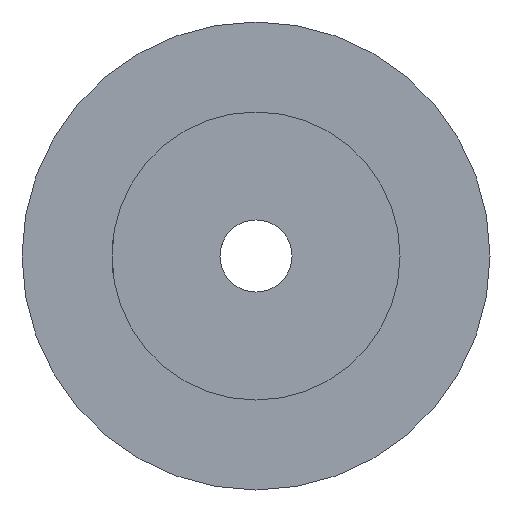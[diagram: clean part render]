
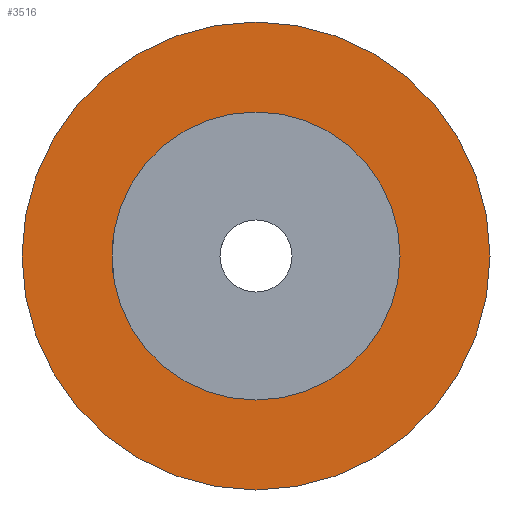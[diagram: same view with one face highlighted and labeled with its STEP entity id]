
A CAD part, left-side view. The second image highlights one B-rep face of the part: STEP entity #3516.
In plain terms, the highlighted planar face has unit normal (-1, 0, 0).
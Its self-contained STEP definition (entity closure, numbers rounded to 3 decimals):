
#2653 = CARTESIAN_POINT ( 'NONE',  ( 8., 0., 0. ) ) ;
#2654 = AXIS2_PLACEMENT_3D ( 'NONE', #2653, #2813, #2812 ) ;
#2655 = CIRCLE ( 'NONE', #2654, 32.5 ) ;
#2695 = CARTESIAN_POINT ( 'NONE',  ( 8., 0., -20. ) ) ;
#2696 = CARTESIAN_POINT ( 'NONE',  ( 8., 0., 20. ) ) ;
#2697 = DIRECTION ( 'NONE',  ( 0., 0., 1. ) ) ;
#2698 = DIRECTION ( 'NONE',  ( -1., 0., 0. ) ) ;
#2797 = DIRECTION ( 'NONE',  ( 0., 0., -1. ) ) ;
#2798 = DIRECTION ( 'NONE',  ( 1., 0., 0. ) ) ;
#2799 = CARTESIAN_POINT ( 'NONE',  ( 8., 20., 0. ) ) ;
#2800 = AXIS2_PLACEMENT_3D ( 'NONE', #2799, #2798, #2797 ) ;
#2802 = PLANE ( 'NONE',  #2800 ) ;
#2803 = FACE_OUTER_BOUND ( 'NONE', #3521, .T. ) ;
#2804 = FACE_BOUND ( 'NONE', #3519, .T. ) ;
#2812 = DIRECTION ( 'NONE',  ( 0., 0., 1. ) ) ;
#2813 = DIRECTION ( 'NONE',  ( -1., 0., 0. ) ) ;
#2814 = CARTESIAN_POINT ( 'NONE',  ( 8., 0., 0. ) ) ;
#2815 = AXIS2_PLACEMENT_3D ( 'NONE', #2814, #2698, #2697 ) ;
#2844 = CIRCLE ( 'NONE', #2815, 20. ) ;
#2908 = CARTESIAN_POINT ( 'NONE',  ( 8., 0., 0. ) ) ;
#2910 = AXIS2_PLACEMENT_3D ( 'NONE', #2908, #2944, #2943 ) ;
#2911 = CIRCLE ( 'NONE', #2910, 32.5 ) ;
#2912 = CARTESIAN_POINT ( 'NONE',  ( 8., 0., -32.5 ) ) ;
#2941 = CARTESIAN_POINT ( 'NONE',  ( 8., 0., 32.5 ) ) ;
#2943 = DIRECTION ( 'NONE',  ( 0., 0., 1. ) ) ;
#2944 = DIRECTION ( 'NONE',  ( -1., 0., 0. ) ) ;
#3007 = CIRCLE ( 'NONE', #3326, 20. ) ;
#3008 = CARTESIAN_POINT ( 'NONE',  ( 8., 0., 0. ) ) ;
#3323 = DIRECTION ( 'NONE',  ( 0., 0., 1. ) ) ;
#3325 = DIRECTION ( 'NONE',  ( -1., 0., 0. ) ) ;
#3326 = AXIS2_PLACEMENT_3D ( 'NONE', #3008, #3325, #3323 ) ;
#3416 = EDGE_CURVE ( 'NONE', #3417, #3418, #2844, .T. ) ;
#3417 = VERTEX_POINT ( 'NONE', #2696 ) ;
#3418 = VERTEX_POINT ( 'NONE', #2695 ) ;
#3494 = ORIENTED_EDGE ( 'NONE', *, *, #3714, .F. ) ;
#3495 = ORIENTED_EDGE ( 'NONE', *, *, #3686, .T. ) ;
#3496 = ORIENTED_EDGE ( 'NONE', *, *, #3498, .T. ) ;
#3498 = EDGE_CURVE ( 'NONE', #3682, #3687, #2655, .T. ) ;
#3516 = ADVANCED_FACE ( 'NONE', ( #2804, #2803 ), #2802, .F. ) ;
#3519 = EDGE_LOOP ( 'NONE', ( #3520, #3494 ) ) ;
#3520 = ORIENTED_EDGE ( 'NONE', *, *, #3416, .F. ) ;
#3521 = EDGE_LOOP ( 'NONE', ( #3495, #3496 ) ) ;
#3682 = VERTEX_POINT ( 'NONE', #2912 ) ;
#3686 = EDGE_CURVE ( 'NONE', #3687, #3682, #2911, .T. ) ;
#3687 = VERTEX_POINT ( 'NONE', #2941 ) ;
#3714 = EDGE_CURVE ( 'NONE', #3418, #3417, #3007, .T. ) ;
